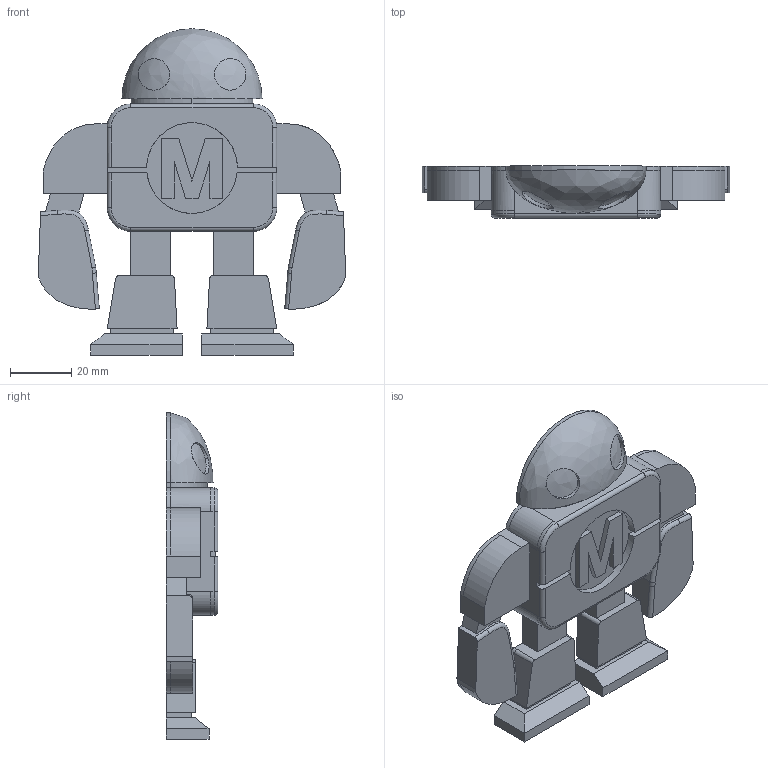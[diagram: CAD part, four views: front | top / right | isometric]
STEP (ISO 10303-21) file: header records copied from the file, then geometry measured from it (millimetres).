
FILE_DESCRIPTION(/* description */ (''),/* implementation_level */ '2;1');
FILE_NAME(/* name */ 'Makey Side 1',/* time_stamp */ '2025-12-22T13:02:35-05:00',/* author */ (''),/* organization */ (''),/* preprocessor_version */ 'ST-DEVELOPER v19.2',/* originating_system */ 'Rhino 8.14',/* authorisation */ '');
FILE_SCHEMA (('CONFIG_CONTROL_DESIGN'));
Length unit declared in the file: inch
Products named in the file (1): Document
Bounding box: 100.38 x 16.93 x 106.6 mm (x, y, z)
Volume: 80391 mm3; surface area: 22146 mm2
Topology: 1 solids, 1 shells, 155 faces, 432 edges, 281 vertices
Faces by surface type: plane 91, cylinder 39, bspline 25
Entity records: 5260 total; most frequent: CARTESIAN_POINT 2229, ORIENTED_EDGE 862, EDGE_CURVE 431, B_SPLINE_CURVE_WITH_KNOTS 370, VERTEX_POINT 281, DIRECTION 182, EDGE_LOOP 158, AXIS2_PLACEMENT_3D 156
